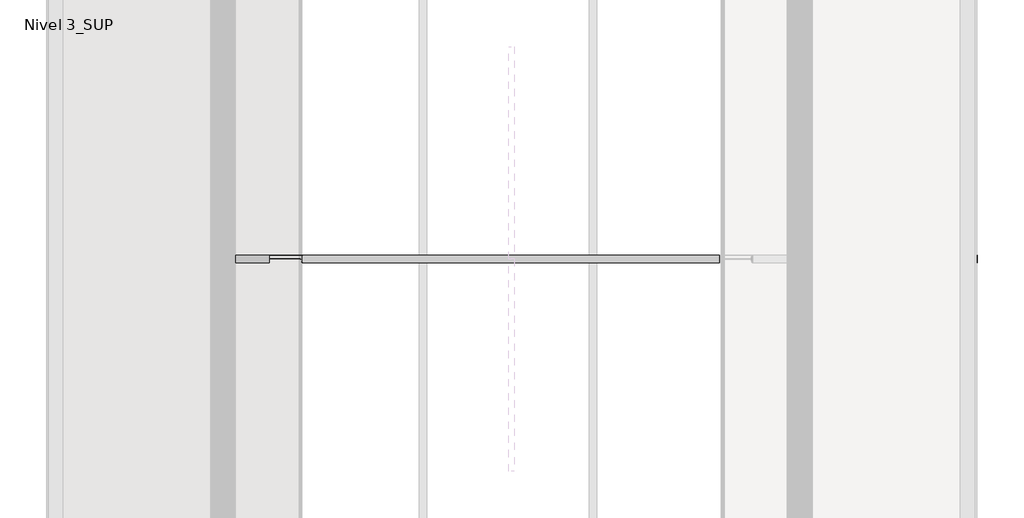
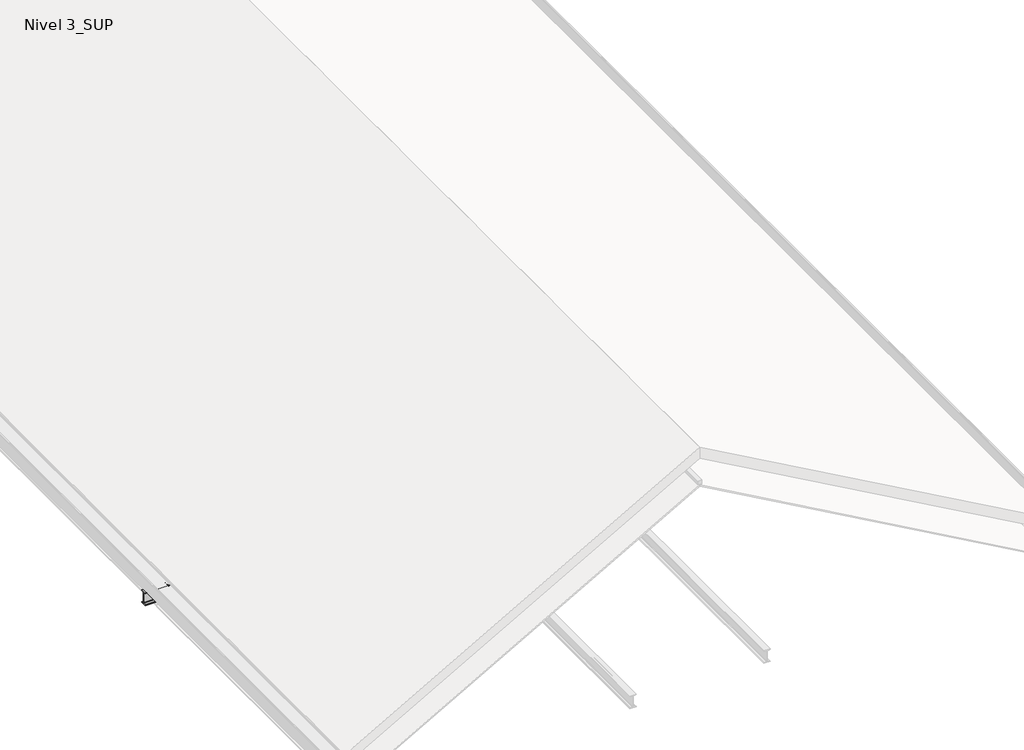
# One storey, part 2 of 10: 2 beams.
"""IFC4 building model written with IfcOpenShell, lengths in millimetres."""

from ifc_helpers import new_model, si_unit, point, frame, frame_2d, origin, place, context, project, spatial, polyline, circle_curve, ellipse_curve, trimmed, segment, composite_curve, outline, extrude, element, save
from ifc_brep_helpers import plane_surface, cylinder_surface, revolved_surface, advanced_brep

model = new_model("IFC4")

# Units and contexts
model_context = context("Model", 3, world=origin())
ifc_project = project(units=[si_unit("LENGTHUNIT", "METRE", prefix="MILLI")], contexts=[model_context])

# Site, building, storey
site = spatial("IfcSite", under=ifc_project)
building = spatial("IfcBuilding", under=site)
storey = spatial("IfcBuildingStorey", under=building, Name="Nivel 3_SUP", Elevation=13230.0)

# Beams
placement = place(None, origin())
element("IfcBeam", 1, ObjectType="IPN - Secciones en I con alas cónicas : IPN 160", at=placement, inside=storey, context=model_context, shape_type="SweptSolid", body=[
    extrude(outline(composite_curve([segment(polyline([(-1826.3927727, 13390.0), (-1826.3927727, 13386.3950593)]), True, "CONTINUOUS"), segment(trimmed(circle_curve(frame_2d((-1830.1927727, 13386.3950593)), 3.8), [point((-1826.3927727, 13386.3950593))], [point((-1829.6659109, 13382.6317607))], False, "CARTESIAN"), True, "CONTINUOUS"), segment(polyline([(-1829.6659109, 13382.6317607), (-1854.8162541, 13379.1107126)]), True, "CONTINUOUS"), segment(trimmed(circle_curve(frame_2d((-1853.9427727, 13372.8715596)), 6.3), [point((-1854.8162541, 13379.1107126))], [point((-1860.2427727, 13372.8715596))], True, "CARTESIAN"), True, "CONTINUOUS"), segment(polyline([(-1860.2427727, 13372.8715596), (-1860.2427727, 13247.1284404)]), True, "CONTINUOUS"), segment(trimmed(circle_curve(frame_2d((-1853.9427727, 13247.1284404)), 6.3), [point((-1860.2427727, 13247.1284404))], [point((-1854.8162541, 13240.8892874))], True, "CARTESIAN"), True, "CONTINUOUS"), segment(polyline([(-1854.8162541, 13240.8892874), (-1829.6659109, 13237.3682393)]), True, "CONTINUOUS"), segment(trimmed(circle_curve(frame_2d((-1830.1927727, 13233.6049407)), 3.8), [point((-1829.6659109, 13237.3682393))], [point((-1826.3927727, 13233.6049407))], False, "CARTESIAN"), True, "CONTINUOUS"), segment(polyline([(-1826.3927727, 13233.6049407), (-1826.3927727, 13230.0), (-1900.3927727, 13230.0), (-1900.3927727, 13233.6049407)]), True, "CONTINUOUS"), segment(trimmed(circle_curve(frame_2d((-1896.5927727, 13233.6049407)), 3.8), [point((-1900.3927727, 13233.6049407))], [point((-1897.1196345, 13237.3682393))], False, "CARTESIAN"), True, "CONTINUOUS"), segment(polyline([(-1897.1196345, 13237.3682393), (-1871.9692913, 13240.8892874)]), True, "CONTINUOUS"), segment(trimmed(circle_curve(frame_2d((-1872.8427727, 13247.1284404)), 6.3), [point((-1871.9692913, 13240.8892874))], [point((-1866.5427727, 13247.1284404))], True, "CARTESIAN"), True, "CONTINUOUS"), segment(polyline([(-1866.5427727, 13247.1284404), (-1866.5427727, 13372.8715596)]), True, "CONTINUOUS"), segment(trimmed(circle_curve(frame_2d((-1872.8427727, 13372.8715596)), 6.3), [point((-1866.5427727, 13372.8715596))], [point((-1871.9692913, 13379.1107126))], True, "CARTESIAN"), True, "CONTINUOUS"), segment(polyline([(-1871.9692913, 13379.1107126), (-1897.1196345, 13382.6317607)]), True, "CONTINUOUS"), segment(trimmed(circle_curve(frame_2d((-1896.5927727, 13386.3950593)), 3.8), [point((-1897.1196345, 13382.6317607))], [point((-1900.3927727, 13386.3950593))], False, "CARTESIAN"), True, "CONTINUOUS"), segment(polyline([(-1900.3927727, 13386.3950593), (-1900.3927727, 13390.0), (-1826.3927727, 13390.0)]), True, "CONTINUOUS")], self_intersect=False)), frame((6033.4837907, 0.0, 0.0), z_axis=(1.0, 0.0, 0.0), x_axis=(0.0, 1.0, 0.0)), (0.0, 0.0, 1.0), 8930.9968832),
])
element("IfcBeam", 2, ObjectType="IPN - Secciones en I con alas cónicas : IPN 160", at=placement, inside=storey, context=model_context, shape_type="AdvancedBrep", body=[
    advanced_brep(
    [(6390.9153459, -1900.3927727, 13240.5610738), (6389.1422546, -1900.3927727, 13243.6998227), (6387.2912749, -1897.1196345, 13246.9764506), (6385.5594462, -1871.9692913, 13250.0421559), (6382.4907166, -1866.5427727, 13255.4744601), (6387.2054153, -1866.5427727, 13247.1284404), (6390.7299368, -1871.9692913, 13240.8892874), (6390.9153459, -1874.3136743, 13240.5610738), (6649.0725288, -1900.3927727, 13386.3950593), (6641.7431841, -1900.3927727, 13386.3950593), (6627.4300365, -1897.1196345, 13382.6317607), (6614.038253, -1871.9692913, 13379.1107126), (6590.3085608, -1866.5427727, 13372.8715596), (6391.4963539, -1871.9692913, 13240.8892874), (6402.5409822, -1866.5427727, 13247.1284404), (6625.133057, -1866.5427727, 13372.8715596), (6636.1776853, -1871.9692913, 13379.1107126), (6642.4106895, -1897.1196345, 13382.6317607)],
    [
        (0, 1),
        (1, 2, circle_curve(frame((6389.1422546, -1896.5927727, 13243.6998227), z_axis=(-0.8706797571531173, 0.0, -0.49185034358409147), x_axis=(0.0, 1.0, 0.0)), 3.8)),
        (2, 3),
        (3, 4, circle_curve(frame((6382.4907166, -1872.8427727, 13255.4744601), z_axis=(0.8706797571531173, 0.0, 0.49185034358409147), x_axis=(0.0, 1.0, 0.0)), 6.3)),
        (4, 5),
        (5, 6, ellipse_curve(frame((6387.2054153, -1872.8427727, 13247.1284404), z_axis=(-0.8706797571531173, 0.0, -0.49185034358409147), x_axis=(0.49185034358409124, 0.0, -0.8706797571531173)), 7.2357258, 6.3)),
        (6, 7),
        (7, 0),
        (0, 8),
        (8, 9),
        (9, 1),
        (2, 10),
        (10, 11),
        (11, 3),
        (11, 12, ellipse_curve(frame((6590.3085608, -1872.8427727, 13372.8715596), z_axis=(-0.25428354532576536, 0.0, 0.9671297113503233), x_axis=(0.9671297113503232, 0.0, 0.2542835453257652)), 24.7754922, 6.3)),
        (12, 4),
        (7, 13),
        (13, 14, ellipse_curve(frame((6402.5409822, -1872.8427727, 13247.1284404), z_axis=(0.49185034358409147, 0.0, -0.8706797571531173), x_axis=(0.8706797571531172, 0.0, 0.4918503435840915)), 12.8087742, 6.3)),
        (14, 15),
        (15, 16, ellipse_curve(frame((6625.133057, -1872.8427727, 13372.8715596), z_axis=(0.49185034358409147, 0.0, -0.8706797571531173), x_axis=(0.8706797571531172, 0.0, 0.4918503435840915)), 12.8087742, 6.3)),
        (16, 17),
        (17, 8, ellipse_curve(frame((6649.0725288, -1896.5927727, 13386.3950593), z_axis=(-0.49185034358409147, 0.0, 0.8706797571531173), x_axis=(-0.8706797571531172, 0.0, -0.4918503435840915)), 7.7259273, 3.8)),
        (9, 10, ellipse_curve(frame((6641.7431841, -1896.5927727, 13386.3950593), z_axis=(0.25428354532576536, 0.0, -0.9671297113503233), x_axis=(-0.9671297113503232, 0.0, -0.2542835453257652)), 14.9439477, 3.8)),
        (6, 13),
        (5, 14),
        (17, 10),
        (12, 15),
        (11, 16),
    ],
    [
        plane_surface(frame((6351.5673184, -1863.3927727, 13310.2154543), z_axis=(-0.8706797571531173, 0.0, -0.49185034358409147), x_axis=(-0.49185034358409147, 0.0, 0.8706797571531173))),
        plane_surface(frame((6390.9153459, -1900.3927727, 13240.5610738), z_axis=(0.0, -1.0, 0.0), x_axis=(0.8706797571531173, 0.0, 0.49185034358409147))),
        plane_surface(frame((6386.2427677, -1881.8927727, 13248.8325315), z_axis=(-0.48709992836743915, -0.13864784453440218, 0.862270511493), x_axis=(0.8706797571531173, 0.0, 0.49185034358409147))),
        revolved_surface(polyline([(6611.171018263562, -1866.5427727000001, 13384.656842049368), (6382.4907166, -1866.5427727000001, 13255.4744601)]), (6382.4907166, -1872.8427727, 13255.4744601), (0.8706797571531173, 0.0, 0.49185034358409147)),
        plane_surface(frame((6390.9153459, -1826.3927727, 13240.5610738), z_axis=(0.49185034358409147, 0.0, -0.8706797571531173), x_axis=(0.8706797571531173, 0.0, 0.49185034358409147))),
        cylinder_surface(frame((6389.1422546, -1896.5927727, 13243.6998227), z_axis=(-0.8706797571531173, 0.0, -0.49185034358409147), x_axis=(0.0, 1.0, 0.0)), 3.8),
        plane_surface(frame((6033.4837907, -1897.1196345, 13237.3682393), z_axis=(0.0, 0.13864784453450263, -0.9903417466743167), x_axis=(1.0, 0.0, 0.0))),
        cylinder_surface(frame((10498.9822323, -1872.8427727, 13247.1284404), z_axis=(1.0, 0.0, 0.0), x_axis=(0.0, 1.0, 0.0)), 6.3),
        revolved_surface(polyline([(6627.290448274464, -1892.7927727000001, 13386.3950593), (6656.195919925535, -1892.7927727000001, 13386.3950593)]), (10498.9822323, -1896.5927727, 13386.3950593), (-1.0, 0.0, 0.0)),
        plane_surface(frame((6033.4837907, -1866.5427727, 13247.1284404), z_axis=(0.0, 1.0, 0.0), x_axis=(1.0, 0.0, 0.0))),
        cylinder_surface(frame((10498.9822323, -1872.8427727, 13372.8715596), z_axis=(1.0, 0.0, 0.0), x_axis=(0.0, 1.0, 0.0)), 6.3),
        plane_surface(frame((6033.4837907, -1871.9692913, 13379.1107126), z_axis=(0.0, 0.13864784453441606, 0.9903417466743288), x_axis=(1.0, 0.0, 0.0))),
    ],
    [
        (0, [[1, 2, 3, 4, 5, 6, 7, 8]]),
        (1, [[-1, 9, 10, 11]]),
        (2, [[-3, 12, 13, 14]]),
        (3, [[-4, -14, 15, 16]]),
        (4, [[-8, 17, 18, 19, 20, 21, 22, -9]]),
        (5, [[-2, -11, 23, -12]]),
        (6, [[24, -17, -7]]),
        (7, [[-24, -6, 25, -18]]),
        (8, [[26, -23, -10, -22]]),
        (9, [[-25, -5, -16, 27, -19]]),
        (10, [[-27, -15, 28, -20]]),
        (11, [[-28, -13, -26, -21]]),
    ],
),
    advanced_brep(
    [(10528.0970194, -1826.3927727, 15577.6709134), (10526.3239281, -1826.3927727, 15580.8096623), (10524.4729483, -1829.6659109, 15584.0862902), (10522.7411196, -1854.8162541, 15587.1519955), (10519.6723901, -1860.2427727, 15592.5842997), (10528.0970194, -1860.2427727, 15577.6709134), (10420.8520301, -1829.6659109, 15525.5504349), (10424.3730781, -1854.8162541, 15531.5835105), (10417.0887314, -1826.3927727, 15519.1022796), (10417.0887314, -1826.3927727, 15514.9619045), (10430.6122311, -1860.2427727, 15522.6013815), (10424.3730781, -1854.8162541, 15519.07686), (10420.8520301, -1829.6659109, 15517.0878064), (10430.6122311, -1860.2427727, 15542.2738734)],
    [
        (0, 1),
        (1, 2, circle_curve(frame((10526.3239281, -1830.1927727, 15580.8096623), z_axis=(0.8706797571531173, 0.0, 0.49185034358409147), x_axis=(0.0, 1.0, 0.0)), 3.8)),
        (2, 3),
        (3, 4, circle_curve(frame((10519.6723901, -1853.9427727, 15592.5842997), z_axis=(-0.8706797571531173, 0.0, -0.49185034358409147), x_axis=(0.0, 1.0, 0.0)), 6.3)),
        (4, 5),
        (5, 0),
        (2, 6),
        (6, 7),
        (7, 3),
        (1, 8),
        (8, 6, ellipse_curve(frame((10417.0887314, -1830.1927727, 15519.1022796), z_axis=(0.8636695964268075, 0.0, -0.5040583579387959), x_axis=(-0.504058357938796, 0.0, -0.8636695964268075)), 7.5388096, 3.8)),
        (0, 9),
        (9, 8),
        (5, 10),
        (10, 11, ellipse_curve(frame((10430.6122311, -1853.9427727, 15522.6013815), z_axis=(0.49185034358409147, 0.0, -0.8706797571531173), x_axis=(0.8706797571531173, 0.0, 0.49185034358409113)), 7.2357258, 6.3)),
        (11, 12),
        (12, 9, ellipse_curve(frame((10417.0887314, -1830.1927727, 15514.9619045), z_axis=(-0.49185034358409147, 0.0, 0.8706797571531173), x_axis=(-0.8706797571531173, 0.0, -0.49185034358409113)), 4.3644061, 3.8)),
        (7, 13, ellipse_curve(frame((10430.6122311, -1853.9427727, 15542.2738734), z_axis=(-0.8636695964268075, 0.0, 0.5040583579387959), x_axis=(0.504058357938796, 0.0, 0.8636695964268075)), 12.4985528, 6.3)),
        (13, 4),
        (6, 12),
        (11, 7),
        (10, 13),
    ],
    [
        plane_surface(frame((10488.7489919, -1863.3927727, 15647.3252939), z_axis=(0.8706797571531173, 0.0, 0.49185034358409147), x_axis=(-0.49185034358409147, 0.0, 0.8706797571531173))),
        plane_surface(frame((6386.2427677, -1844.8927727, 13248.8325315), z_axis=(-0.48709992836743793, 0.1386478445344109, 0.8622705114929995), x_axis=(0.8706797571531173, 0.0, 0.49185034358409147))),
        cylinder_surface(frame((6389.1422546, -1830.1927727, 13243.6998227), z_axis=(-0.8706797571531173, 0.0, -0.49185034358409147), x_axis=(0.0, 1.0, 0.0)), 3.8),
        plane_surface(frame((6389.1422546, -1826.3927727, 13243.6998227), z_axis=(0.0, 1.0, 0.0), x_axis=(0.8706797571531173, 0.0, 0.49185034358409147))),
        plane_surface(frame((6390.9153459, -1826.3927727, 13240.5610738), z_axis=(0.49185034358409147, 0.0, -0.8706797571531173), x_axis=(0.8706797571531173, 0.0, 0.49185034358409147))),
        revolved_surface(polyline([(10519.672390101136, -1847.6427727, 15592.584299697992), (10421.213573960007, -1847.6427727, 15536.964535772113)]), (6382.4907166, -1853.9427727, 13255.4744601), (0.8706797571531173, 0.0, 0.49185034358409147)),
        plane_surface(frame((10420.8520301, -1829.6659109, 13390.0), z_axis=(-0.9903417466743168, -0.13864784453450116, 0.0), x_axis=(0.0, 0.0, 1.0))),
        cylinder_surface(frame((10430.6122311, -1853.9427727, 14544.0), z_axis=(0.0, 0.0, 1.0), x_axis=(0.0, -1.0, 0.0)), 6.3),
        plane_surface(frame((10430.6122311, -1860.2427727, 13390.0), z_axis=(0.0, -1.0, 0.0), x_axis=(0.0, 0.0, 1.0))),
        revolved_surface(polyline([(10417.0887314, -1833.9927727, 15512.591238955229), (10417.0887314, -1833.9927727, 15525.61332024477)]), (10417.0887314, -1830.1927727, 14544.0), (0.0, 0.0, -1.0)),
    ],
    [
        (0, [[1, 2, 3, 4, 5, 6]]),
        (1, [[-3, 7, 8, 9]]),
        (2, [[-2, 10, 11, -7]]),
        (3, [[-1, 12, 13, -10]]),
        (4, [[-6, 14, 15, 16, 17, -12]]),
        (5, [[-4, -9, 18, 19]]),
        (6, [[20, -16, 21, -8]]),
        (7, [[-21, -15, 22, -18]]),
        (8, [[-22, -14, -5, -19]]),
        (9, [[-20, -11, -13, -17]]),
    ],
),
    advanced_brep(
    [(6313.9923823, -1826.3927727, 13376.731086), (6312.2192909, -1826.3927727, 13379.8698349), (6323.7703264, -1826.3927727, 13386.3950593), (6331.0996711, -1826.3927727, 13386.3950593), (6317.5751907, -1854.8162541, 13370.3887528), (6315.843362, -1829.6659109, 13373.4544581), (6332.0891402, -1829.6659109, 13382.6317607), (6333.0149153, -1854.8162541, 13379.1107126), (6320.6439202, -1860.2427727, 13364.9564486), (6334.6553508, -1860.2427727, 13372.8715596), (6316.1726436, -1860.2427727, 13372.8715596), (6312.6481221, -1854.8162541, 13379.1107126), (6312.2192909, -1849.3939518, 13379.8698349), (6317.1084871, -1829.6659109, 13382.6317607)],
    [
        (0, 1),
        (1, 2),
        (2, 3),
        (3, 0),
        (4, 5),
        (5, 6),
        (6, 7),
        (7, 4),
        (8, 4, circle_curve(frame((6320.6439202, -1853.9427727, 13364.9564486), z_axis=(-0.8706797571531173, 0.0, -0.49185034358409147), x_axis=(0.0, 1.0, 0.0)), 6.3)),
        (7, 9, ellipse_curve(frame((6334.6553508, -1853.9427727, 13372.8715596), z_axis=(0.9671297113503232, 0.0, 0.25428354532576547), x_axis=(-0.2542835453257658, 0.0, 0.9671297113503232)), 6.514121, 6.3)),
        (9, 8),
        (0, 5, circle_curve(frame((6313.9923823, -1830.1927727, 13376.731086), z_axis=(-0.8706797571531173, 0.0, -0.49185034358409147), x_axis=(0.0, 1.0, 0.0)), 3.8)),
        (8, 10),
        (10, 11, ellipse_curve(frame((6316.1726436, -1853.9427727, 13372.8715596), z_axis=(-0.8706797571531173, 0.0, -0.49185034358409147), x_axis=(0.49185034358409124, 0.0, -0.8706797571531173)), 7.2357258, 6.3)),
        (11, 12),
        (12, 1),
        (12, 13),
        (13, 2, ellipse_curve(frame((6323.7703264, -1830.1927727, 13386.3950593), z_axis=(0.49185034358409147, 0.0, -0.8706797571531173), x_axis=(-0.8706797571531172, 0.0, -0.4918503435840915)), 7.7259273, 3.8)),
        (3, 6, ellipse_curve(frame((6331.0996711, -1830.1927727, 13386.3950593), z_axis=(-0.9671297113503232, 0.0, -0.25428354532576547), x_axis=(0.2542835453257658, 0.0, -0.9671297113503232)), 3.9291524, 3.8)),
        (6, 13),
        (11, 7),
        (10, 9),
    ],
    [
        plane_surface(frame((6312.2192909, -1826.3927727, 13379.8698349), z_axis=(0.0, 1.0, 0.0), x_axis=(0.8706797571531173, 0.0, 0.49185034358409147))),
        plane_surface(frame((6316.8918692, -1844.8927727, 13371.5983772), z_axis=(0.4870999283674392, 0.1386478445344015, -0.8622705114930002), x_axis=(0.8706797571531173, 0.0, 0.49185034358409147))),
        revolved_surface(polyline([(6336.097574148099, -1847.6427727, 13373.686277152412), (6320.6439202, -1847.6427727, 13364.9564486)]), (6320.6439202, -1853.9427727, 13364.9564486), (0.8706797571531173, 0.0, 0.49185034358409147)),
        plane_surface(frame((6351.5673184, -1863.3927727, 13310.2154543), z_axis=(-0.8706797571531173, 0.0, -0.49185034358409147), x_axis=(-0.49185034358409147, 0.0, 0.8706797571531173))),
        plane_surface(frame((6312.2192909, -1900.3927727, 13379.8698349), z_axis=(-0.49185034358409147, 0.0, 0.8706797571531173), x_axis=(0.8706797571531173, 0.0, 0.49185034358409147))),
        cylinder_surface(frame((6313.9923823, -1830.1927727, 13376.731086), z_axis=(-0.8706797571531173, 0.0, -0.49185034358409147), x_axis=(0.0, 1.0, 0.0)), 3.8),
        plane_surface(frame((6033.4837907, -1829.6659109, 13382.6317607), z_axis=(0.0, -0.13864784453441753, 0.9903417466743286), x_axis=(1.0, 0.0, 0.0))),
        cylinder_surface(frame((10498.9822323, -1853.9427727, 13372.8715596), z_axis=(1.0, 0.0, 0.0), x_axis=(0.0, 1.0, 0.0)), 6.3),
        plane_surface(frame((6033.4837907, -1860.2427727, 13372.8715596), z_axis=(0.0, -1.0, 0.0), x_axis=(1.0, 0.0, 0.0))),
        revolved_surface(polyline([(6317.043517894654, -1826.3927727, 13386.3950593), (6332.098789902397, -1826.3927727, 13386.3950593)]), (10498.9822323, -1830.1927727, 13386.3950593), (-1.0, 0.0, 0.0)),
    ],
    [
        (0, [[1, 2, 3, 4]]),
        (1, [[5, 6, 7, 8]]),
        (2, [[9, -8, 10, 11]]),
        (3, [[-1, 12, -5, -9, 13, 14, 15, 16]]),
        (4, [[-16, 17, 18, -2]]),
        (5, [[-12, -4, 19, -6]]),
        (6, [[20, -17, -15, 21, -7]]),
        (7, [[-21, -14, 22, -10]]),
        (8, [[-22, -13, -11]]),
        (9, [[-20, -19, -3, -18]]),
    ],
),
    advanced_brep(
    [(10413.4837907, -1826.3927727, 15692.5495499), (10413.4837907, -1829.6659109, 15688.2272964), (6345.1324915, -1829.6659109, 13390.0), (6337.4811832, -1826.3927727, 13390.0), (10413.4837907, -1860.2427727, 15677.0174331), (10413.4837907, -1860.2427727, 15532.5979515), (6620.6295447, -1860.2427727, 13390.0), (6364.9763347, -1860.2427727, 13390.0), (10413.4837907, -1829.6659109, 15521.3880882), (10413.4837907, -1826.3927727, 15517.0658347), (6648.1246962, -1826.3927727, 13390.0), (6640.4733878, -1829.6659109, 13390.0), (10413.4837907, -1900.3927727, 15517.0658347), (10413.4837907, -1897.1196345, 15521.3880882), (6640.4733878, -1897.1196345, 13390.0), (6648.1246962, -1900.3927727, 13390.0), (10413.4837907, -1866.5427727, 15532.5979515), (10413.4837907, -1866.5427727, 15677.0174331), (6364.9763347, -1866.5427727, 13390.0), (6620.6295447, -1866.5427727, 13390.0), (10413.4837907, -1897.1196345, 15688.2272964), (10413.4837907, -1900.3927727, 15692.5495499), (6337.4811832, -1900.3927727, 13390.0), (6345.1324915, -1897.1196345, 13390.0), (10413.4837907, -1826.3927727, 15696.6899249), (6330.1518385, -1826.3927727, 13390.0), (10413.4837907, -1854.8162541, 15684.1832745), (6352.2912708, -1854.8162541, 13390.0), (10413.4837907, -1854.8162541, 15525.4321101), (6633.3146085, -1854.8162541, 13390.0), (10413.4837907, -1826.3927727, 15512.9254597), (6655.4540409, -1826.3927727, 13390.0), (10413.4837907, -1900.3927727, 15512.9254597), (6655.4540409, -1900.3927727, 13390.0), (10413.4837907, -1871.9692913, 15525.4321101), (6633.3146085, -1871.9692913, 13390.0), (10413.4837907, -1871.9692913, 15684.1832745), (6352.2912708, -1871.9692913, 13390.0), (10413.4837907, -1900.3927727, 15696.6899249), (6330.1518385, -1900.3927727, 13390.0)],
    [
        (0, 1, ellipse_curve(frame((10413.4837907, -1830.1927727, 15692.5495499), z_axis=(-1.0, 0.0, 0.0), x_axis=(0.0, 0.0, -0.9999999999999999)), 4.3644061, 3.8)),
        (1, 2),
        (2, 3, ellipse_curve(frame((6337.4811832, -1830.1927727, 13390.0), z_axis=(0.0, 0.0, 1.0), x_axis=(-1.0, 0.0, 0.0)), 7.7259273, 3.8)),
        (3, 0),
        (4, 5),
        (5, 6),
        (6, 7),
        (7, 4),
        (8, 9, ellipse_curve(frame((10413.4837907, -1830.1927727, 15517.0658347), z_axis=(-1.0, 0.0, 0.0), x_axis=(0.0, 0.0, -0.9999999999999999)), 4.3644061, 3.8)),
        (9, 10),
        (10, 11, ellipse_curve(frame((6648.1246962, -1830.1927727, 13390.0), z_axis=(0.0, 0.0, 1.0), x_axis=(-1.0, 0.0, 0.0)), 7.7259273, 3.8)),
        (11, 8),
        (12, 13, ellipse_curve(frame((10413.4837907, -1896.5927727, 15517.0658347), z_axis=(-1.0, 0.0, 0.0), x_axis=(0.0, 0.0, -0.9999999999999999)), 4.3644061, 3.8)),
        (13, 14),
        (14, 15, ellipse_curve(frame((6648.1246962, -1896.5927727, 13390.0), z_axis=(0.0, 0.0, 1.0), x_axis=(-1.0, 0.0, 0.0)), 7.7259273, 3.8)),
        (15, 12),
        (16, 17),
        (17, 18),
        (18, 19),
        (19, 16),
        (20, 21, ellipse_curve(frame((10413.4837907, -1896.5927727, 15692.5495499), z_axis=(-1.0, 0.0, 0.0), x_axis=(0.0, 0.0, -0.9999999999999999)), 4.3644061, 3.8)),
        (21, 22),
        (22, 23, ellipse_curve(frame((6337.4811832, -1896.5927727, 13390.0), z_axis=(0.0, 0.0, 1.0), x_axis=(-1.0, 0.0, 0.0)), 7.7259273, 3.8)),
        (23, 20),
        (24, 0),
        (3, 25),
        (25, 24),
        (1, 26),
        (26, 27),
        (27, 2),
        (26, 4, ellipse_curve(frame((10413.4837907, -1853.9427727, 15677.0174331), z_axis=(1.0, 0.0, 0.0), x_axis=(0.0, 0.0, 0.9999999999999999)), 7.2357258, 6.3)),
        (7, 27, ellipse_curve(frame((6364.9763347, -1853.9427727, 13390.0), z_axis=(0.0, 0.0, -1.0), x_axis=(1.0, 0.0, 0.0)), 12.8087742, 6.3)),
        (5, 28, ellipse_curve(frame((10413.4837907, -1853.9427727, 15532.5979515), z_axis=(1.0, 0.0, 0.0), x_axis=(0.0, 0.0, 0.9999999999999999)), 7.2357258, 6.3)),
        (28, 29),
        (29, 6, ellipse_curve(frame((6620.6295447, -1853.9427727, 13390.0), z_axis=(0.0, 0.0, -1.0), x_axis=(1.0, 0.0, 0.0)), 12.8087742, 6.3)),
        (28, 8),
        (11, 29),
        (9, 30),
        (30, 31),
        (31, 10),
        (30, 32),
        (32, 33),
        (33, 31),
        (32, 12),
        (15, 33),
        (13, 34),
        (34, 35),
        (35, 14),
        (34, 16, ellipse_curve(frame((10413.4837907, -1872.8427727, 15532.5979515), z_axis=(1.0, 0.0, 0.0), x_axis=(0.0, 0.0, 0.9999999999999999)), 7.2357258, 6.3)),
        (19, 35, ellipse_curve(frame((6620.6295447, -1872.8427727, 13390.0), z_axis=(0.0, 0.0, -1.0), x_axis=(1.0, 0.0, 0.0)), 12.8087742, 6.3)),
        (17, 36, ellipse_curve(frame((10413.4837907, -1872.8427727, 15677.0174331), z_axis=(1.0, 0.0, 0.0), x_axis=(0.0, 0.0, 0.9999999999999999)), 7.2357258, 6.3)),
        (36, 37),
        (37, 18, ellipse_curve(frame((6364.9763347, -1872.8427727, 13390.0), z_axis=(0.0, 0.0, -1.0), x_axis=(1.0, 0.0, 0.0)), 12.8087742, 6.3)),
        (36, 20),
        (23, 37),
        (21, 38),
        (38, 39),
        (39, 22),
        (38, 24),
        (25, 39),
    ],
    [
        cylinder_surface(frame((6313.9923823, -1830.1927727, 13376.731086), z_axis=(-0.8706797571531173, 0.0, -0.49185034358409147), x_axis=(0.0, 1.0, 0.0)), 3.8),
        plane_surface(frame((6320.6439202, -1860.2427727, 13364.9564486), z_axis=(0.0, 1.0, 0.0), x_axis=(0.8706797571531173, 0.0, 0.49185034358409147))),
        cylinder_surface(frame((6389.1422546, -1830.1927727, 13243.6998227), z_axis=(-0.8706797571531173, 0.0, -0.49185034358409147), x_axis=(0.0, 1.0, 0.0)), 3.8),
        cylinder_surface(frame((6389.1422546, -1896.5927727, 13243.6998227), z_axis=(-0.8706797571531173, 0.0, -0.49185034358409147), x_axis=(0.0, 1.0, 0.0)), 3.8),
        plane_surface(frame((6382.4907166, -1866.5427727, 13255.4744601), z_axis=(0.0, -1.0, 0.0), x_axis=(0.8706797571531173, 0.0, 0.49185034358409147))),
        cylinder_surface(frame((6313.9923823, -1896.5927727, 13376.731086), z_axis=(-0.8706797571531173, 0.0, -0.49185034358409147), x_axis=(0.0, 1.0, 0.0)), 3.8),
        plane_surface(frame((6312.2192909, -1826.3927727, 13379.8698349), z_axis=(0.0, 1.0, 0.0), x_axis=(0.8706797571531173, 0.0, 0.49185034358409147))),
        plane_surface(frame((6316.8918692, -1844.8927727, 13371.5983772), z_axis=(0.4870999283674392, 0.1386478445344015, -0.8622705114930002), x_axis=(0.8706797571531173, 0.0, 0.49185034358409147))),
        revolved_surface(polyline([(10416.582447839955, -1847.6427727, 15678.767876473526), (6355.266217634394, -1847.6427727, 13384.514717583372)]), (6320.6439202, -1853.9427727, 13364.9564486), (0.8706797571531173, 0.0, 0.49185034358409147)),
        revolved_surface(polyline([(10416.582447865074, -1847.6427727, 15534.348394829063), (6610.919427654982, -1847.6427727, 13384.514717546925)]), (6382.4907166, -1853.9427727, 13255.4744601), (0.8706797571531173, 0.0, 0.49185034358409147)),
        plane_surface(frame((6386.2427677, -1844.8927727, 13248.8325315), z_axis=(-0.48709992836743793, 0.1386478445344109, 0.8622705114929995), x_axis=(0.8706797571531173, 0.0, 0.49185034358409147))),
        plane_surface(frame((6389.1422546, -1826.3927727, 13243.6998227), z_axis=(0.0, 1.0, 0.0), x_axis=(0.8706797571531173, 0.0, 0.49185034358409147))),
        plane_surface(frame((6390.9153459, -1826.3927727, 13240.5610738), z_axis=(0.49185034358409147, 0.0, -0.8706797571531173), x_axis=(0.8706797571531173, 0.0, 0.49185034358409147))),
        plane_surface(frame((6390.9153459, -1900.3927727, 13240.5610738), z_axis=(0.0, -1.0, 0.0), x_axis=(0.8706797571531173, 0.0, 0.49185034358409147))),
        plane_surface(frame((6386.2427677, -1881.8927727, 13248.8325315), z_axis=(-0.48709992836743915, -0.13864784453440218, 0.862270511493), x_axis=(0.8706797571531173, 0.0, 0.49185034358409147))),
        revolved_surface(polyline([(10416.582447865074, -1866.5427727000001, 15534.348394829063), (6610.919427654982, -1866.5427727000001, 13384.514717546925)]), (6382.4907166, -1872.8427727, 13255.4744601), (0.8706797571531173, 0.0, 0.49185034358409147)),
        revolved_surface(polyline([(10416.582447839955, -1866.5427727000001, 15678.767876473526), (6355.266217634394, -1866.5427727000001, 13384.514717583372)]), (6320.6439202, -1872.8427727, 13364.9564486), (0.8706797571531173, 0.0, 0.49185034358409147)),
        plane_surface(frame((6316.8918692, -1881.8927727, 13371.5983772), z_axis=(0.48709992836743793, -0.13864784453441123, -0.8622705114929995), x_axis=(0.8706797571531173, 0.0, 0.49185034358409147))),
        plane_surface(frame((6313.9923823, -1900.3927727, 13376.731086), z_axis=(0.0, -1.0, 0.0), x_axis=(0.8706797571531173, 0.0, 0.49185034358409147))),
        plane_surface(frame((6312.2192909, -1900.3927727, 13379.8698349), z_axis=(-0.49185034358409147, 0.0, 0.8706797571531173), x_axis=(0.8706797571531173, 0.0, 0.49185034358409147))),
        plane_surface(frame((10413.4837907, -1900.3927727, 13390.0), z_axis=(1.0, 0.0, 0.0), x_axis=(0.0, 0.0, 1.0))),
        plane_surface(frame((6033.4837907, -1900.3927727, 13390.0), z_axis=(0.0, 0.0, -1.0), x_axis=(1.0, 0.0, 0.0))),
    ],
    [
        (0, [[1, 2, 3, 4]]),
        (1, [[5, 6, 7, 8]]),
        (2, [[9, 10, 11, 12]]),
        (3, [[13, 14, 15, 16]]),
        (4, [[17, 18, 19, 20]]),
        (5, [[21, 22, 23, 24]]),
        (6, [[25, -4, 26, 27]]),
        (7, [[28, 29, 30, -2]]),
        (8, [[31, -8, 32, -29]]),
        (9, [[33, 34, 35, -6]]),
        (10, [[36, -12, 37, -34]]),
        (11, [[38, 39, 40, -10]]),
        (12, [[41, 42, 43, -39]]),
        (13, [[44, -16, 45, -42]]),
        (14, [[46, 47, 48, -14]]),
        (15, [[49, -20, 50, -47]]),
        (16, [[51, 52, 53, -18]]),
        (17, [[54, -24, 55, -52]]),
        (18, [[56, 57, 58, -22]]),
        (19, [[59, -27, 60, -57]]),
        (20, [[-25, -59, -56, -21, -54, -51, -17, -49, -46, -13, -44, -41, -38, -9, -36, -33, -5, -31, -28, -1]]),
        (21, [[-26, -3, -30, -32, -7, -35, -37, -11, -40, -43, -45, -15, -48, -50, -19, -53, -55, -23, -58, -60]]),
    ],
),
    advanced_brep(
    [(6385.5594462, -1854.8162541, 13250.0421559), (6382.4907166, -1860.2427727, 13255.4744601), (6590.3085608, -1860.2427727, 13372.8715596), (6614.038253, -1854.8162541, 13379.1107126), (6387.2912749, -1829.6659109, 13246.9764506), (6627.4300365, -1829.6659109, 13382.6317607), (6390.9153459, -1826.3927727, 13240.5610738), (6389.1422546, -1826.3927727, 13243.6998227), (6641.7431841, -1826.3927727, 13386.3950593), (6649.0725288, -1826.3927727, 13386.3950593), (6390.9153459, -1852.4718711, 13240.5610738), (6642.4106895, -1829.6659109, 13382.6317607), (6636.1776853, -1854.8162541, 13379.1107126), (6625.133057, -1860.2427727, 13372.8715596), (6402.5409822, -1860.2427727, 13247.1284404), (6391.4963539, -1854.8162541, 13240.8892874), (6390.7299368, -1854.8162541, 13240.8892874), (6387.2054153, -1860.2427727, 13247.1284404)],
    [
        (0, 1, circle_curve(frame((6382.4907166, -1853.9427727, 13255.4744601), z_axis=(-0.8706797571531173, 0.0, -0.49185034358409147), x_axis=(0.0, 1.0, 0.0)), 6.3)),
        (1, 2),
        (2, 3, ellipse_curve(frame((6590.3085608, -1853.9427727, 13372.8715596), z_axis=(-0.25428354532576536, 0.0, 0.9671297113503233), x_axis=(0.9671297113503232, 0.0, 0.2542835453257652)), 24.7754922, 6.3)),
        (3, 0),
        (4, 0),
        (3, 5),
        (5, 4),
        (6, 7),
        (7, 8),
        (8, 9),
        (9, 6),
        (10, 6),
        (9, 11, ellipse_curve(frame((6649.0725288, -1830.1927727, 13386.3950593), z_axis=(-0.49185034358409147, 0.0, 0.8706797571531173), x_axis=(-0.8706797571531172, 0.0, -0.4918503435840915)), 7.7259273, 3.8)),
        (11, 12),
        (12, 13, ellipse_curve(frame((6625.133057, -1853.9427727, 13372.8715596), z_axis=(0.49185034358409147, 0.0, -0.8706797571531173), x_axis=(0.8706797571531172, 0.0, 0.4918503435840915)), 12.8087742, 6.3)),
        (13, 14),
        (14, 15, ellipse_curve(frame((6402.5409822, -1853.9427727, 13247.1284404), z_axis=(0.49185034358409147, 0.0, -0.8706797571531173), x_axis=(0.8706797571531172, 0.0, 0.4918503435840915)), 12.8087742, 6.3)),
        (15, 10),
        (4, 7, circle_curve(frame((6389.1422546, -1830.1927727, 13243.6998227), z_axis=(-0.8706797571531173, 0.0, -0.49185034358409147), x_axis=(0.0, 1.0, 0.0)), 3.8)),
        (10, 16),
        (16, 17, ellipse_curve(frame((6387.2054153, -1853.9427727, 13247.1284404), z_axis=(-0.8706797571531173, 0.0, -0.49185034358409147), x_axis=(0.49185034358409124, 0.0, -0.8706797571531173)), 7.2357258, 6.3)),
        (17, 1),
        (5, 8, ellipse_curve(frame((6641.7431841, -1830.1927727, 13386.3950593), z_axis=(0.25428354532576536, 0.0, -0.9671297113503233), x_axis=(-0.9671297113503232, 0.0, -0.2542835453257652)), 14.9439477, 3.8)),
        (5, 11),
        (14, 17),
        (16, 15),
        (3, 12),
        (2, 13),
    ],
    [
        revolved_surface(polyline([(6611.171018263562, -1847.6427727, 13384.656842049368), (6382.4907166, -1847.6427727, 13255.4744601)]), (6382.4907166, -1853.9427727, 13255.4744601), (0.8706797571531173, 0.0, 0.49185034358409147)),
        plane_surface(frame((6386.2427677, -1844.8927727, 13248.8325315), z_axis=(-0.48709992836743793, 0.1386478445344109, 0.8622705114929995), x_axis=(0.8706797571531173, 0.0, 0.49185034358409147))),
        plane_surface(frame((6389.1422546, -1826.3927727, 13243.6998227), z_axis=(0.0, 1.0, 0.0), x_axis=(0.8706797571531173, 0.0, 0.49185034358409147))),
        plane_surface(frame((6390.9153459, -1826.3927727, 13240.5610738), z_axis=(0.49185034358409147, 0.0, -0.8706797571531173), x_axis=(0.8706797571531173, 0.0, 0.49185034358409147))),
        plane_surface(frame((6351.5673184, -1863.3927727, 13310.2154543), z_axis=(-0.8706797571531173, 0.0, -0.49185034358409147), x_axis=(-0.49185034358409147, 0.0, 0.8706797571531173))),
        cylinder_surface(frame((6389.1422546, -1830.1927727, 13243.6998227), z_axis=(-0.8706797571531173, 0.0, -0.49185034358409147), x_axis=(0.0, 1.0, 0.0)), 3.8),
        revolved_surface(polyline([(6627.290448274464, -1826.3927727, 13386.3950593), (6656.195919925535, -1826.3927727, 13386.3950593)]), (10498.9822323, -1830.1927727, 13386.3950593), (-1.0, 0.0, 0.0)),
        cylinder_surface(frame((10498.9822323, -1853.9427727, 13247.1284404), z_axis=(1.0, 0.0, 0.0), x_axis=(0.0, 1.0, 0.0)), 6.3),
        plane_surface(frame((6033.4837907, -1854.8162541, 13240.8892874), z_axis=(0.0, -0.13864784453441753, -0.9903417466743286), x_axis=(1.0, 0.0, 0.0))),
        plane_surface(frame((6033.4837907, -1829.6659109, 13382.6317607), z_axis=(0.0, -0.13864784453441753, 0.9903417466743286), x_axis=(1.0, 0.0, 0.0))),
        cylinder_surface(frame((10498.9822323, -1853.9427727, 13372.8715596), z_axis=(1.0, 0.0, 0.0), x_axis=(0.0, 1.0, 0.0)), 6.3),
        plane_surface(frame((6033.4837907, -1860.2427727, 13372.8715596), z_axis=(0.0, -1.0, 0.0), x_axis=(1.0, 0.0, 0.0))),
    ],
    [
        (0, [[1, 2, 3, 4]]),
        (1, [[5, -4, 6, 7]]),
        (2, [[8, 9, 10, 11]]),
        (3, [[12, -11, 13, 14, 15, 16, 17, 18]]),
        (4, [[-1, -5, 19, -8, -12, 20, 21, 22]]),
        (5, [[-19, -7, 23, -9]]),
        (6, [[24, -13, -10, -23]]),
        (7, [[25, -21, 26, -17]]),
        (8, [[-26, -20, -18]]),
        (9, [[-24, -6, 27, -14]]),
        (10, [[-27, -3, 28, -15]]),
        (11, [[-28, -2, -22, -25, -16]]),
    ],
),
    advanced_brep(
    [(6317.5751907, -1871.9692913, 13370.3887528), (6320.6439202, -1866.5427727, 13364.9564486), (6334.6553508, -1866.5427727, 13372.8715596), (6333.0149153, -1871.9692913, 13379.1107126), (6315.843362, -1897.1196345, 13373.4544581), (6332.0891402, -1897.1196345, 13382.6317607), (6312.2192909, -1900.3927727, 13379.8698349), (6313.9923823, -1900.3927727, 13376.731086), (6331.0996711, -1900.3927727, 13386.3950593), (6323.7703264, -1900.3927727, 13386.3950593), (6312.2192909, -1877.3915936, 13379.8698349), (6317.1084871, -1897.1196345, 13382.6317607), (6312.6481221, -1871.9692913, 13379.1107126), (6316.1726436, -1866.5427727, 13372.8715596)],
    [
        (0, 1, circle_curve(frame((6320.6439202, -1872.8427727, 13364.9564486), z_axis=(-0.8706797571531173, 0.0, -0.49185034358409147), x_axis=(0.0, 1.0, 0.0)), 6.3)),
        (1, 2),
        (2, 3, ellipse_curve(frame((6334.6553508, -1872.8427727, 13372.8715596), z_axis=(0.9671297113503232, 0.0, 0.25428354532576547), x_axis=(-0.2542835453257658, 0.0, 0.9671297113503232)), 6.514121, 6.3)),
        (3, 0),
        (4, 0),
        (3, 5),
        (5, 4),
        (6, 7),
        (7, 8),
        (8, 9),
        (9, 6),
        (10, 6),
        (9, 11, ellipse_curve(frame((6323.7703264, -1896.5927727, 13386.3950593), z_axis=(0.49185034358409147, 0.0, -0.8706797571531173), x_axis=(-0.8706797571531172, 0.0, -0.4918503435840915)), 7.7259273, 3.8)),
        (11, 10),
        (4, 7, circle_curve(frame((6313.9923823, -1896.5927727, 13376.731086), z_axis=(-0.8706797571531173, 0.0, -0.49185034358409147), x_axis=(0.0, 1.0, 0.0)), 3.8)),
        (10, 12),
        (12, 13, ellipse_curve(frame((6316.1726436, -1872.8427727, 13372.8715596), z_axis=(-0.8706797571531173, 0.0, -0.49185034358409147), x_axis=(0.49185034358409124, 0.0, -0.8706797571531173)), 7.2357258, 6.3)),
        (13, 1),
        (5, 8, ellipse_curve(frame((6331.0996711, -1896.5927727, 13386.3950593), z_axis=(-0.9671297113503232, 0.0, -0.25428354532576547), x_axis=(0.2542835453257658, 0.0, -0.9671297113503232)), 3.9291524, 3.8)),
        (13, 2),
        (12, 3),
        (11, 5),
    ],
    [
        revolved_surface(polyline([(6336.097574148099, -1866.5427727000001, 13373.686277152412), (6320.6439202, -1866.5427727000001, 13364.9564486)]), (6320.6439202, -1872.8427727, 13364.9564486), (0.8706797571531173, 0.0, 0.49185034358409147)),
        plane_surface(frame((6316.8918692, -1881.8927727, 13371.5983772), z_axis=(0.48709992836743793, -0.13864784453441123, -0.8622705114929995), x_axis=(0.8706797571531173, 0.0, 0.49185034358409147))),
        plane_surface(frame((6313.9923823, -1900.3927727, 13376.731086), z_axis=(0.0, -1.0, 0.0), x_axis=(0.8706797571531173, 0.0, 0.49185034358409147))),
        plane_surface(frame((6312.2192909, -1900.3927727, 13379.8698349), z_axis=(-0.49185034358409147, 0.0, 0.8706797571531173), x_axis=(0.8706797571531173, 0.0, 0.49185034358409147))),
        plane_surface(frame((6351.5673184, -1863.3927727, 13310.2154543), z_axis=(-0.8706797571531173, 0.0, -0.49185034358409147), x_axis=(-0.49185034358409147, 0.0, 0.8706797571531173))),
        cylinder_surface(frame((6313.9923823, -1896.5927727, 13376.731086), z_axis=(-0.8706797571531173, 0.0, -0.49185034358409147), x_axis=(0.0, 1.0, 0.0)), 3.8),
        plane_surface(frame((6033.4837907, -1866.5427727, 13247.1284404), z_axis=(0.0, 1.0, 0.0), x_axis=(1.0, 0.0, 0.0))),
        cylinder_surface(frame((10498.9822323, -1872.8427727, 13372.8715596), z_axis=(1.0, 0.0, 0.0), x_axis=(0.0, 1.0, 0.0)), 6.3),
        plane_surface(frame((6033.4837907, -1871.9692913, 13379.1107126), z_axis=(0.0, 0.13864784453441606, 0.9903417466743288), x_axis=(1.0, 0.0, 0.0))),
        revolved_surface(polyline([(6317.043517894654, -1892.7927727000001, 13386.3950593), (6332.098789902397, -1892.7927727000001, 13386.3950593)]), (10498.9822323, -1896.5927727, 13386.3950593), (-1.0, 0.0, 0.0)),
    ],
    [
        (0, [[1, 2, 3, 4]]),
        (1, [[5, -4, 6, 7]]),
        (2, [[8, 9, 10, 11]]),
        (3, [[12, -11, 13, 14]]),
        (4, [[-1, -5, 15, -8, -12, 16, 17, 18]]),
        (5, [[-15, -7, 19, -9]]),
        (6, [[20, -2, -18]]),
        (7, [[-20, -17, 21, -3]]),
        (8, [[-21, -16, -14, 22, -6]]),
        (9, [[-22, -13, -10, -19]]),
    ],
),
    advanced_brep(
    [(10528.0970194, -1866.5427727, 15577.6709134), (10528.0970194, -1900.3927727, 15577.6709134), (10417.0887314, -1900.3927727, 15514.9619045), (10420.8520301, -1897.1196345, 15517.0878064), (10424.3730781, -1871.9692913, 15519.07686), (10430.6122311, -1866.5427727, 15522.6013815), (10526.3239281, -1900.3927727, 15580.8096623), (10417.0887314, -1900.3927727, 15519.1022796), (10524.4729483, -1897.1196345, 15584.0862902), (10420.8520301, -1897.1196345, 15525.5504349), (10522.7411196, -1871.9692913, 15587.1519955), (10424.3730781, -1871.9692913, 15531.5835105), (10519.6723901, -1866.5427727, 15592.5842997), (10430.6122311, -1866.5427727, 15542.2738734)],
    [
        (0, 1),
        (1, 2),
        (2, 3, ellipse_curve(frame((10417.0887314, -1896.5927727, 15514.9619045), z_axis=(-0.49185034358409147, 0.0, 0.8706797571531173), x_axis=(-0.8706797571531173, 0.0, -0.49185034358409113)), 4.3644061, 3.8)),
        (3, 4),
        (4, 5, ellipse_curve(frame((10430.6122311, -1872.8427727, 15522.6013815), z_axis=(0.49185034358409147, 0.0, -0.8706797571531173), x_axis=(0.8706797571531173, 0.0, 0.49185034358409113)), 7.2357258, 6.3)),
        (5, 0),
        (1, 6),
        (6, 7),
        (7, 2),
        (6, 8, circle_curve(frame((10526.3239281, -1896.5927727, 15580.8096623), z_axis=(-0.8706797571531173, 0.0, -0.49185034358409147), x_axis=(0.0, 1.0, 0.0)), 3.8)),
        (8, 9),
        (9, 7, ellipse_curve(frame((10417.0887314, -1896.5927727, 15519.1022796), z_axis=(0.8636695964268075, 0.0, -0.5040583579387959), x_axis=(-0.504058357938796, 0.0, -0.8636695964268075)), 7.5388096, 3.8)),
        (8, 10),
        (10, 11),
        (11, 9),
        (10, 12, circle_curve(frame((10519.6723901, -1872.8427727, 15592.5842997), z_axis=(0.8706797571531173, 0.0, 0.49185034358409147), x_axis=(0.0, 1.0, 0.0)), 6.3)),
        (12, 13),
        (13, 11, ellipse_curve(frame((10430.6122311, -1872.8427727, 15542.2738734), z_axis=(-0.8636695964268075, 0.0, 0.5040583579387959), x_axis=(0.504058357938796, 0.0, 0.8636695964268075)), 12.4985528, 6.3)),
        (0, 12),
        (5, 13),
        (4, 11),
        (3, 9),
    ],
    [
        plane_surface(frame((6390.9153459, -1826.3927727, 13240.5610738), z_axis=(0.49185034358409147, 0.0, -0.8706797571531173), x_axis=(0.8706797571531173, 0.0, 0.49185034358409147))),
        plane_surface(frame((6390.9153459, -1900.3927727, 13240.5610738), z_axis=(0.0, -1.0, 0.0), x_axis=(0.8706797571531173, 0.0, 0.49185034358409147))),
        cylinder_surface(frame((6389.1422546, -1896.5927727, 13243.6998227), z_axis=(-0.8706797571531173, 0.0, -0.49185034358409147), x_axis=(0.0, 1.0, 0.0)), 3.8),
        plane_surface(frame((6386.2427677, -1881.8927727, 13248.8325315), z_axis=(-0.48709992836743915, -0.13864784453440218, 0.862270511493), x_axis=(0.8706797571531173, 0.0, 0.49185034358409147))),
        revolved_surface(polyline([(10519.672390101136, -1866.5427727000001, 15592.584299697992), (10421.213573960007, -1866.5427727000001, 15536.964535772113)]), (6382.4907166, -1872.8427727, 13255.4744601), (0.8706797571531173, 0.0, 0.49185034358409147)),
        plane_surface(frame((10488.7489919, -1863.3927727, 15647.3252939), z_axis=(0.8706797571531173, 0.0, 0.49185034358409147), x_axis=(-0.49185034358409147, 0.0, 0.8706797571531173))),
        plane_surface(frame((10556.3553503, -1866.5427727, 13390.0), z_axis=(0.0, 1.0, 0.0), x_axis=(0.0, 0.0, 1.0))),
        cylinder_surface(frame((10430.6122311, -1872.8427727, 14544.0), z_axis=(0.0, 0.0, 1.0), x_axis=(0.0, -1.0, 0.0)), 6.3),
        plane_surface(frame((10424.3730781, -1871.9692913, 13390.0), z_axis=(-0.9903417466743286, 0.13864784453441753, 0.0), x_axis=(0.0, 0.0, 1.0))),
        revolved_surface(polyline([(10417.0887314, -1900.3927727, 15512.591238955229), (10417.0887314, -1900.3927727, 15525.61332024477)]), (10417.0887314, -1896.5927727, 14544.0), (0.0, 0.0, -1.0)),
    ],
    [
        (0, [[1, 2, 3, 4, 5, 6]]),
        (1, [[7, 8, 9, -2]]),
        (2, [[10, 11, 12, -8]]),
        (3, [[13, 14, 15, -11]]),
        (4, [[16, 17, 18, -14]]),
        (5, [[-16, -13, -10, -7, -1, 19]]),
        (6, [[20, -17, -19, -6]]),
        (7, [[-20, -5, 21, -18]]),
        (8, [[-21, -4, 22, -15]]),
        (9, [[-22, -3, -9, -12]]),
    ],
),
    advanced_brep(
    [(10449.4009644, -1826.3927727, 15716.9796745), (10449.4009644, -1900.3927727, 15716.9796745), (10451.1740557, -1900.3927727, 15713.8409256), (10453.0250355, -1897.1196345, 15710.5642977), (10454.7568642, -1871.9692913, 15707.4985924), (10457.8255937, -1866.5427727, 15702.0662882), (10460.1226555, -1866.5427727, 15698.0), (10460.1226555, -1860.2427727, 15698.0), (10457.8255937, -1860.2427727, 15702.0662882), (10454.7568642, -1854.8162541, 15707.4985924), (10453.0250355, -1829.6659109, 15710.5642977), (10451.1740557, -1826.3927727, 15713.8409256), (10424.3730781, -1854.8162541, 15698.0), (10430.6122311, -1860.2427727, 15698.0), (10450.6273985, -1860.2427727, 15698.0), (10450.6273985, -1866.5427727, 15698.0), (10430.6122311, -1866.5427727, 15698.0), (10424.3730781, -1871.9692913, 15698.0), (10420.8520301, -1897.1196345, 15698.0), (10417.0887314, -1900.3927727, 15698.0), (10415.8029023, -1900.3927727, 15698.0), (10415.8029023, -1826.3927727, 15698.0), (10417.0887314, -1826.3927727, 15698.0), (10420.8520301, -1829.6659109, 15698.0), (10417.0887314, -1826.3927727, 15694.5859948), (10420.8520301, -1829.6659109, 15692.3896432), (10424.3730781, -1854.8162541, 15690.3346748), (10430.6122311, -1860.2427727, 15686.693355), (10424.3730781, -1871.9692913, 15690.3346748), (10430.6122311, -1866.5427727, 15686.693355), (10420.8520301, -1897.1196345, 15692.3896432), (10417.0887314, -1900.3927727, 15694.5859948)],
    [
        (0, 1),
        (1, 2),
        (2, 3, circle_curve(frame((10451.1740557, -1896.5927727, 15713.8409256), z_axis=(0.8706797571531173, 0.0, 0.49185034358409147), x_axis=(0.0, 1.0, 0.0)), 3.8)),
        (3, 4),
        (4, 5, circle_curve(frame((10457.8255937, -1872.8427727, 15702.0662882), z_axis=(-0.8706797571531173, 0.0, -0.49185034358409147), x_axis=(0.0, 1.0, 0.0)), 6.3)),
        (5, 6),
        (6, 7),
        (7, 8),
        (8, 9, circle_curve(frame((10457.8255937, -1853.9427727, 15702.0662882), z_axis=(-0.8706797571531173, 0.0, -0.49185034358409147), x_axis=(0.0, 1.0, 0.0)), 6.3)),
        (9, 10),
        (10, 11, circle_curve(frame((10451.1740557, -1830.1927727, 15713.8409256), z_axis=(0.8706797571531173, 0.0, 0.49185034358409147), x_axis=(0.0, 1.0, 0.0)), 3.8)),
        (11, 0),
        (12, 13, circle_curve(frame((10430.6122311, -1853.9427727, 15698.0), z_axis=(0.0, 0.0, 1.0), x_axis=(0.0, -1.0, 0.0)), 6.3)),
        (13, 14),
        (14, 7),
        (6, 15),
        (15, 16),
        (16, 17, circle_curve(frame((10430.6122311, -1872.8427727, 15698.0), z_axis=(0.0, 0.0, 1.0), x_axis=(0.0, -1.0, 0.0)), 6.3)),
        (17, 18),
        (18, 19, circle_curve(frame((10417.0887314, -1896.5927727, 15698.0), z_axis=(0.0, 0.0, -1.0), x_axis=(0.0, -1.0, 0.0)), 3.8)),
        (19, 20),
        (20, 21),
        (21, 22),
        (22, 23, circle_curve(frame((10417.0887314, -1830.1927727, 15698.0), z_axis=(0.0, 0.0, -1.0), x_axis=(0.0, -1.0, 0.0)), 3.8)),
        (23, 12),
        (22, 24),
        (24, 25, ellipse_curve(frame((10417.0887314, -1830.1927727, 15694.5859948), z_axis=(-0.504058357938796, 0.0, -0.8636695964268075), x_axis=(0.8636695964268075, 0.0, -0.504058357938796)), 4.3998307, 3.8)),
        (25, 23),
        (11, 24),
        (21, 0),
        (10, 25),
        (9, 26),
        (26, 25),
        (8, 14),
        (14, 27),
        (27, 26, ellipse_curve(frame((10430.6122311, -1853.9427727, 15686.693355), z_axis=(-0.504058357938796, 0.0, -0.8636695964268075), x_axis=(0.8636695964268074, 0.0, -0.5040583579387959)), 7.2944562, 6.3)),
        (5, 15),
        (4, 28),
        (28, 29, ellipse_curve(frame((10430.6122311, -1872.8427727, 15686.693355), z_axis=(-0.504058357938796, 0.0, -0.8636695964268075), x_axis=(0.8636695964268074, 0.0, -0.5040583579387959)), 7.2944562, 6.3)),
        (29, 15),
        (3, 30),
        (30, 28),
        (2, 31),
        (31, 30, ellipse_curve(frame((10417.0887314, -1896.5927727, 15694.5859948), z_axis=(0.504058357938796, 0.0, 0.8636695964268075), x_axis=(-0.8636695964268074, 0.0, 0.5040583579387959)), 4.3998307, 3.8)),
        (1, 20),
        (19, 31),
        (29, 16),
        (28, 17),
        (30, 18),
        (26, 12),
        (27, 13),
    ],
    [
        plane_surface(frame((10488.7489919, -1863.3927727, 15647.3252939), z_axis=(0.8706797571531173, 0.0, 0.49185034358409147), x_axis=(-0.49185034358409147, 0.0, 0.8706797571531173))),
        plane_surface(frame((10493.4837907, -1863.3927727, 15698.0), z_axis=(0.0, 0.0, -1.0), x_axis=(0.0, -1.0, 0.0))),
        revolved_surface(polyline([(10417.0887314, -1833.9927727, 15692.36822336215), (10417.0887314, -1833.9927727, 15698.0)]), (10417.0887314, -1830.1927727, 14544.0), (0.0, 0.0, -1.0)),
        plane_surface(frame((6312.2192909, -1826.3927727, 13379.8698349), z_axis=(0.0, 1.0, 0.0), x_axis=(0.8706797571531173, 0.0, 0.49185034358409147))),
        cylinder_surface(frame((6313.9923823, -1830.1927727, 13376.731086), z_axis=(-0.8706797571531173, 0.0, -0.49185034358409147), x_axis=(0.0, 1.0, 0.0)), 3.8),
        plane_surface(frame((6316.8918692, -1844.8927727, 13371.5983772), z_axis=(0.4870999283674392, 0.1386478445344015, -0.8622705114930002), x_axis=(0.8706797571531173, 0.0, 0.49185034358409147))),
        revolved_surface(polyline([(10457.82559372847, -1847.6427727, 15702.066288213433), (10427.410888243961, -1847.6427727, 15684.884904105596)]), (6320.6439202, -1853.9427727, 13364.9564486), (0.8706797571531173, 0.0, 0.49185034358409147)),
        plane_surface(frame((6320.6439202, -1860.2427727, 13364.9564486), z_axis=(0.0, 1.0, 0.0), x_axis=(0.8706797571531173, 0.0, 0.49185034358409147))),
        plane_surface(frame((6382.4907166, -1866.5427727, 13255.4744601), z_axis=(0.0, -1.0, 0.0), x_axis=(0.8706797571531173, 0.0, 0.49185034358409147))),
        revolved_surface(polyline([(10457.82559372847, -1866.5427727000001, 15702.066288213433), (10427.410888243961, -1866.5427727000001, 15684.884904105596)]), (6320.6439202, -1872.8427727, 13364.9564486), (0.8706797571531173, 0.0, 0.49185034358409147)),
        plane_surface(frame((6316.8918692, -1881.8927727, 13371.5983772), z_axis=(0.48709992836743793, -0.13864784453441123, -0.8622705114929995), x_axis=(0.8706797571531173, 0.0, 0.49185034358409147))),
        cylinder_surface(frame((6313.9923823, -1896.5927727, 13376.731086), z_axis=(-0.8706797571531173, 0.0, -0.49185034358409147), x_axis=(0.0, 1.0, 0.0)), 3.8),
        plane_surface(frame((6313.9923823, -1900.3927727, 13376.731086), z_axis=(0.0, -1.0, 0.0), x_axis=(0.8706797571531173, 0.0, 0.49185034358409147))),
        plane_surface(frame((6312.2192909, -1900.3927727, 13379.8698349), z_axis=(-0.49185034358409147, 0.0, 0.8706797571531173), x_axis=(0.8706797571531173, 0.0, 0.49185034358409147))),
        plane_surface(frame((10556.3553503, -1866.5427727, 13390.0), z_axis=(0.0, 1.0, 0.0), x_axis=(0.0, 0.0, 1.0))),
        cylinder_surface(frame((10430.6122311, -1872.8427727, 14544.0), z_axis=(0.0, 0.0, 1.0), x_axis=(0.0, -1.0, 0.0)), 6.3),
        plane_surface(frame((10424.3730781, -1871.9692913, 13390.0), z_axis=(-0.9903417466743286, 0.13864784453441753, 0.0), x_axis=(0.0, 0.0, 1.0))),
        revolved_surface(polyline([(10417.0887314, -1900.3927727, 15692.36822336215), (10417.0887314, -1900.3927727, 15698.0)]), (10417.0887314, -1896.5927727, 14544.0), (0.0, 0.0, -1.0)),
        plane_surface(frame((10420.8520301, -1829.6659109, 13390.0), z_axis=(-0.9903417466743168, -0.13864784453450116, 0.0), x_axis=(0.0, 0.0, 1.0))),
        cylinder_surface(frame((10430.6122311, -1853.9427727, 14544.0), z_axis=(0.0, 0.0, 1.0), x_axis=(0.0, -1.0, 0.0)), 6.3),
        plane_surface(frame((10430.6122311, -1860.2427727, 13390.0), z_axis=(0.0, -1.0, 0.0), x_axis=(0.0, 0.0, 1.0))),
    ],
    [
        (0, [[1, 2, 3, 4, 5, 6, 7, 8, 9, 10, 11, 12]]),
        (1, [[13, 14, 15, -7, 16, 17, 18, 19, 20, 21, 22, 23, 24, 25]]),
        (2, [[-24, 26, 27, 28]]),
        (3, [[-12, 29, -26, -23, 30]]),
        (4, [[-11, 31, -27, -29]]),
        (5, [[-10, 32, 33, -31]]),
        (6, [[-9, 34, 35, 36, -32]]),
        (7, [[-8, -15, -34]]),
        (8, [[-6, 37, -16]]),
        (9, [[-5, 38, 39, 40, -37]]),
        (10, [[-4, 41, 42, -38]]),
        (11, [[-3, 43, 44, -41]]),
        (12, [[-2, 45, -21, 46, -43]]),
        (13, [[-1, -30, -22, -45]]),
        (14, [[-17, -40, 47]]),
        (15, [[-18, -47, -39, 48]]),
        (16, [[-19, -48, -42, 49]]),
        (17, [[-20, -49, -44, -46]]),
        (18, [[-25, -28, -33, 50]]),
        (19, [[-13, -50, -36, 51]]),
        (20, [[-14, -51, -35]]),
    ],
),
])

save(model, "model.ifc")
